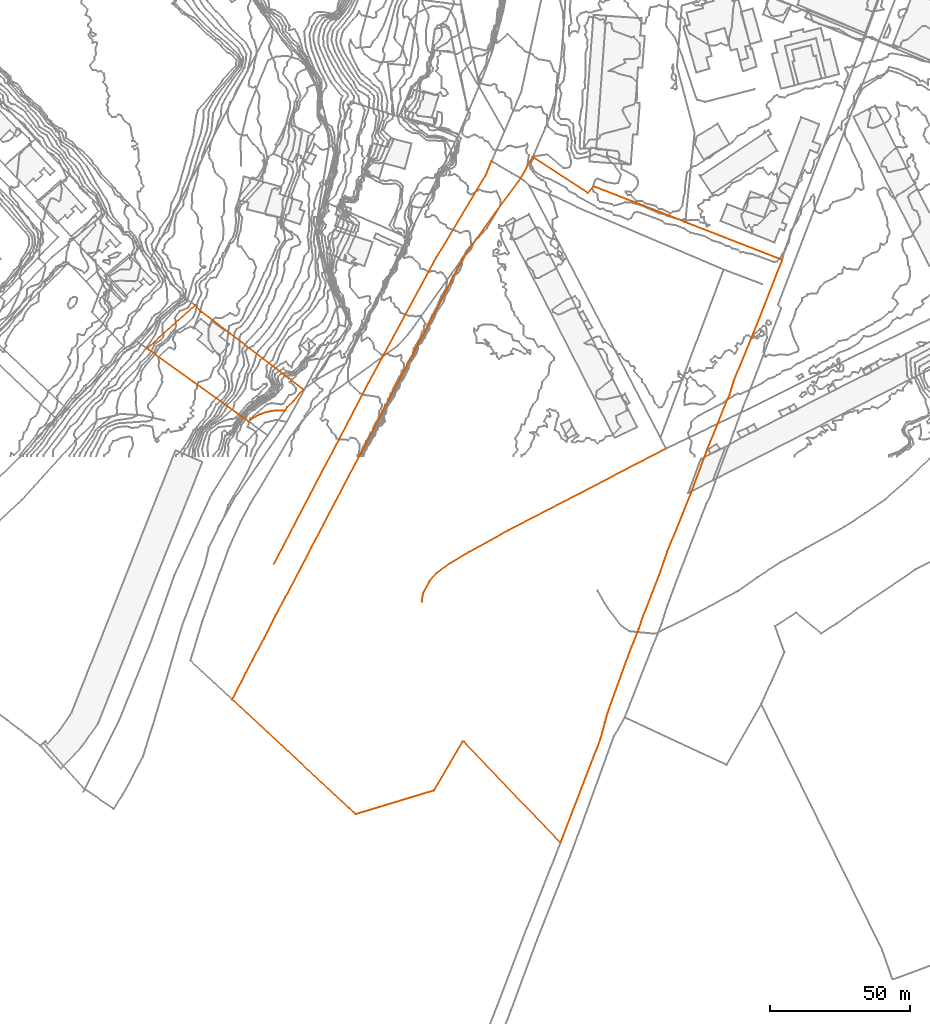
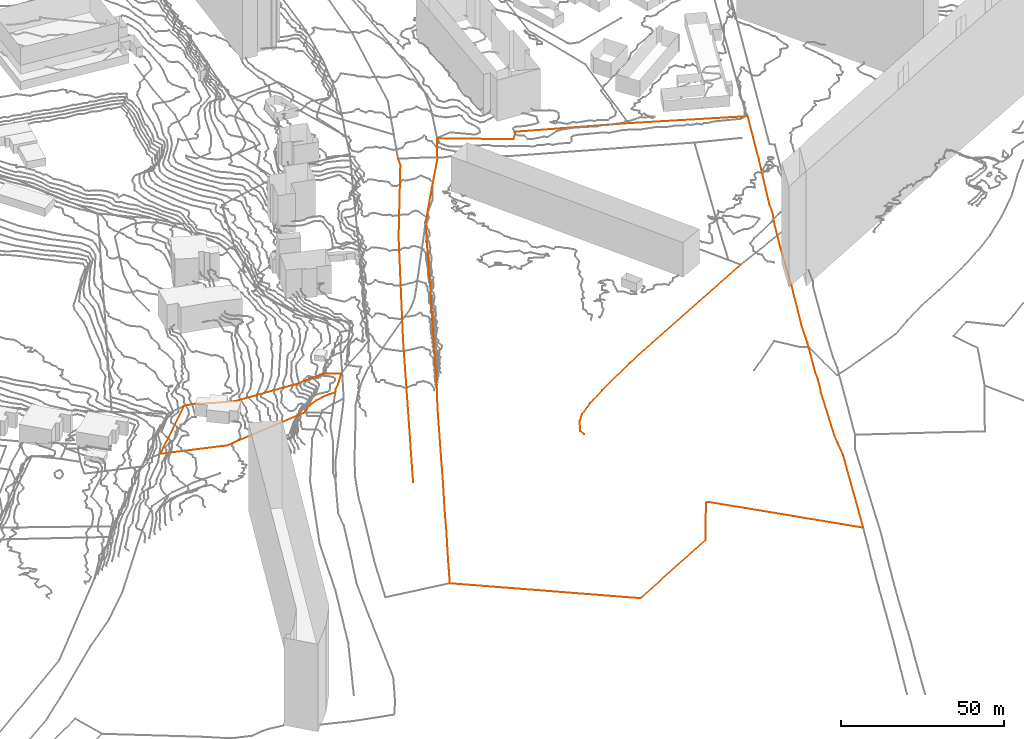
# Not in any storey, part 175 of 419: 4 proxies.
"""IFC2X3 model written with IfcOpenShell, lengths in metres."""

from ifc_helpers import new_model, entity, si_unit, frame, origin_with_axes, place, context, subcontext, project, element, save


model = new_model("IFC2X3")

# Units and contexts
model_context = context("Model", 3, precision=1e-05, world=origin_with_axes())
body_context = subcontext(model_context, "Body", "Model", "MODEL_VIEW")
ifc_project = project(units=[si_unit("AREAUNIT", "SQUARE_METRE"), si_unit("LENGTHUNIT", "METRE")], contexts=[model_context])

# Proxies
proxy_1_placement = place(None, frame((591.6920204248, -39.9023090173, 64.4), z_axis=(0.0, 0.0, 1.0), x_axis=(1.0, 0.0, 0.0)))
element("IfcBuildingElementProxy", 1, at=proxy_1_placement, Name="Route 14", ObjectType="NOTDEFINED", context=body_context, shape_type="GeometricCurveSet", body=[
    entity("IfcGeometricCurveSet", [entity("IfcPolyline", [entity("IfcCartesianPoint", [0.0, 0.0, 0.0]), entity("IfcCartesianPoint", [33.8, 64.7000000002, 2.2]), entity("IfcCartesianPoint", [57.9, 109.2000000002, 5.5]), entity("IfcCartesianPoint", [75.5, 138.5999999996, 8.6]), entity("IfcCartesianPoint", [77.6, 143.5999999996, 7.1])])]),
])
proxy_2_placement = place(None, frame((644.4920204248, -53.3023090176, 72.2), z_axis=(0.0, 0.0, 1.0), x_axis=(1.0, 0.0, 0.0)))
element("IfcBuildingElementProxy", 2, at=proxy_2_placement, Name="Route 157", ObjectType="NOTDEFINED", context=body_context, shape_type="GeometricCurveSet", body=[
    entity("IfcGeometricCurveSet", [entity("IfcPolyline", [entity("IfcCartesianPoint", [87.1, 54.6000000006, -0.1]), entity("IfcCartesianPoint", [30.7999999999, 25.4000000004, 0.4]), entity("IfcCartesianPoint", [16.7, 17.6000000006, 0.0]), entity("IfcCartesianPoint", [10.2, 13.7999999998, -0.4]), entity("IfcCartesianPoint", [5.2, 10.2000000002, -0.6]), entity("IfcCartesianPoint", [2.7, 7.2999999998, -0.6]), entity("IfcCartesianPoint", [0.4, 2.9000000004, -0.8]), entity("IfcCartesianPoint", [0.0, 0.0, 0.0])])]),
])
proxy_3_placement = place(None, frame((576.7920204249, -88.2023090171, 61.1000015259), z_axis=(0.0, 0.0, 1.0), x_axis=(1.0, 0.0, 0.0)))
element("IfcBuildingElementProxy", 3, at=proxy_3_placement, Name="Cadastre 317", ObjectType="NOTDEFINED", context=body_context, shape_type="GeometricCurveSet", body=[
    entity("IfcGeometricCurveSet", [entity("IfcPolyline", [entity("IfcCartesianPoint", [196.1799999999, 156.75, 11.3861990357]), entity("IfcCartesianPoint", [187.7899999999, 135.3300000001, 10.9792236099]), entity("IfcCartesianPoint", [178.99, 113.8099999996, 10.705798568]), entity("IfcCartesianPoint", [177.99, 110.5, 10.6645188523]), entity("IfcCartesianPoint", [177.35, 108.5299999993, 10.2104537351]), entity("IfcCartesianPoint", [176.4199999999, 106.5, 9.3632193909]), entity("IfcCartesianPoint", [172.96, 97.9100000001, 9.3725962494]), entity("IfcCartesianPoint", [170.5299999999, 91.8700000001, 9.5869266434]), entity("IfcCartesianPoint", [169.5599999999, 89.4199999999, 9.8033171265]), entity("IfcCartesianPoint", [169.1599999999, 88.3599999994, 9.8155996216]), entity("IfcCartesianPoint", [169.0299999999, 88.0299999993, 9.808299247]), entity("IfcCartesianPoint", [168.22, 85.8199999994, 9.805801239]), entity("IfcCartesianPoint", [163.6499999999, 73.5499999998, 9.9779956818]), entity("IfcCartesianPoint", [155.1799999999, 52.6799999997, 10.3147984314]), entity("IfcCartesianPoint", [152.84, 45.8099999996, 10.3887963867]), entity("IfcCartesianPoint", [152.7599999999, 45.5699999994, 10.3911962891]), entity("IfcCartesianPoint", [152.11, 43.8599999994, 10.4106954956]), entity("IfcCartesianPoint", [152.0599999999, 43.7299999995, 10.4121954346]), entity("IfcCartesianPoint", [151.0399999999, 41.1299999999, 10.4579974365]), entity("IfcCartesianPoint", [146.23, 28.7799999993, 10.5271994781]), entity("IfcCartesianPoint", [145.0199999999, 25.0099999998, 10.4632009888]), entity("IfcCartesianPoint", [142.97, 19.8499999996, 10.5149001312]), entity("IfcCartesianPoint", [142.3999999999, 18.7299999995, 10.5399993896]), entity("IfcCartesianPoint", [134.2599999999, -3.7300000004, 10.6991978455]), entity("IfcCartesianPoint", [133.13, -7.5300000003, 10.7368991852]), entity("IfcCartesianPoint", [132.9199999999, -8.4199999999, 10.7515991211]), entity("IfcCartesianPoint", [131.3099999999, -14.2300000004, 10.7597990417]), entity("IfcCartesianPoint", [117.1499999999, -51.0800000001, 10.8065013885]), entity("IfcCartesianPoint", [82.71, -15.0200000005, 10.6799972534]), entity("IfcCartesianPoint", [82.1899999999, -15.0200000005, 10.6799972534]), entity("IfcCartesianPoint", [71.97, -32.4100000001, 10.7116963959]), entity("IfcCartesianPoint", [44.0299999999, -40.8900000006, 3.8173002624]), entity("IfcCartesianPoint", [41.7899999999, -38.8100000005, 3.5794987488]), entity("IfcCartesianPoint", [0.0, 0.0, 0.0]), entity("IfcCartesianPoint", [2.0299999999, 3.8399999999, 0.185296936]), entity("IfcCartesianPoint", [3.37, 6.4299999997, 0.3782987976]), entity("IfcCartesianPoint", [4.8999999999, 9.4899999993, 1.2279968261]), entity("IfcCartesianPoint", [7.25, 14.0199999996, 2.102498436]), entity("IfcCartesianPoint", [11.36, 21.7000000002, 2.1855984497]), entity("IfcCartesianPoint", [15.62, 30.0299999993, 2.4437998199]), entity("IfcCartesianPoint", [18.8999999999, 36.25, 2.8359989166]), entity("IfcCartesianPoint", [24.3999999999, 46.6399999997, 3.2059967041]), entity("IfcCartesianPoint", [28.35, 54.3099999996, 3.2629989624]), entity("IfcCartesianPoint", [32.6699999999, 62.5499999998, 3.4560961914]), entity("IfcCartesianPoint", [36.98, 70.8199999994, 3.5317961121]), entity("IfcCartesianPoint", [41.5099999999, 79.46, 3.5654978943]), entity("IfcCartesianPoint", [46.0299999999, 87.9399999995, 8.7135545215]), entity("IfcCartesianPoint", [49.5299999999, 94.7199999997, 7.555053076]), entity("IfcCartesianPoint", [53.84, 102.9799999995, 8.3960852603]), entity("IfcCartesianPoint", [58.22, 111.3199999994, 8.6480152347]), entity("IfcCartesianPoint", [61.46, 117.4799999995, 8.8422460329]), entity("IfcCartesianPoint", [66.4199999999, 126.8399999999, 9.9998304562]), entity("IfcCartesianPoint", [70.3199999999, 134.3599999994, 9.4973569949]), entity("IfcCartesianPoint", [74.36, 142.0299999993, 9.445522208]), entity("IfcCartesianPoint", [78.1499999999, 149.4399999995, 9.762019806]), entity("IfcCartesianPoint", [79.83, 152.5800000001, 9.5949319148]), entity("IfcCartesianPoint", [82.74, 158.0699999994, 10.4339395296]), entity("IfcCartesianPoint", [93.75, 173.4699999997, 10.0508312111]), entity("IfcCartesianPoint", [102.97, 185.8999999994, 10.3797068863]), entity("IfcCartesianPoint", [105.5699999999, 190.7299999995, 10.9159692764]), entity("IfcCartesianPoint", [107.2599999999, 193.4500000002, 11.9906860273]), entity("IfcCartesianPoint", [126.88, 180.5800000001, 12.5640017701]), entity("IfcCartesianPoint", [128.97, 182.9799999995, 13.2053857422]), entity("IfcCartesianPoint", [161.6499999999, 170.2199999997, 12.6952499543]), entity("IfcCartesianPoint", [196.1799999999, 156.75, 11.3861990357])])]),
])
proxy_4_placement = place(None, frame((546.4320204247, 36.9576909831, 44.3829125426), z_axis=(0.0, 0.0, 1.0), x_axis=(1.0, 0.0, 0.0)))
element("IfcBuildingElementProxy", 4, at=proxy_4_placement, Name="Cadastre 345", ObjectType="NOTDEFINED", context=body_context, shape_type="GeometricCurveSet", body=[
    entity("IfcGeometricCurveSet", [entity("IfcPolyline", [entity("IfcCartesianPoint", [36.2100000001, -26.0500000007, 18.6892911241]), entity("IfcCartesianPoint", [16.64, -12.0, 4.5771354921]), entity("IfcCartesianPoint", [0.0, 0.0, 0.0]), entity("IfcCartesianPoint", [17.2100000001, 15.4299999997, 2.5696806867]), entity("IfcCartesianPoint", [19.53, 13.0299999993, 3.9913043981]), entity("IfcCartesianPoint", [25.1900000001, 8.6999999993, 5.0326438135]), entity("IfcCartesianPoint", [29.64, 5.3099999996, 6.1615115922]), entity("IfcCartesianPoint", [45.16, -6.5200000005, 14.5510866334]), entity("IfcCartesianPoint", [50.54, -10.6300000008, 18.3543232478]), entity("IfcCartesianPoint", [50.5800000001, -10.5800000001, 18.3579512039]), entity("IfcCartesianPoint", [50.7000000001, -10.6800000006, 18.4518950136]), entity("IfcCartesianPoint", [51.66, -11.4800000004, 19.0394876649]), entity("IfcCartesianPoint", [55.7300000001, -14.5900000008, 19.4999365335]), entity("IfcCartesianPoint", [52.12, -18.9300000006, 19.456871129]), entity("IfcCartesianPoint", [50.0800000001, -20.9300000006, 19.348030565]), entity("IfcCartesianPoint", [49.2200000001, -22.1700000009, 19.2331847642]), entity("IfcCartesianPoint", [46.9, -22.0700000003, 19.2045662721]), entity("IfcCartesianPoint", [44.5800000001, -22.2700000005, 19.1417135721]), entity("IfcCartesianPoint", [42.14, -22.8200000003, 19.1437845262]), entity("IfcCartesianPoint", [40.01, -23.6000000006, 19.114345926]), entity("IfcCartesianPoint", [38.02, -24.6800000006, 18.9541026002]), entity("IfcCartesianPoint", [36.2100000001, -26.0500000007, 18.6892911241])])]),
])

save(model, "model.ifc")
